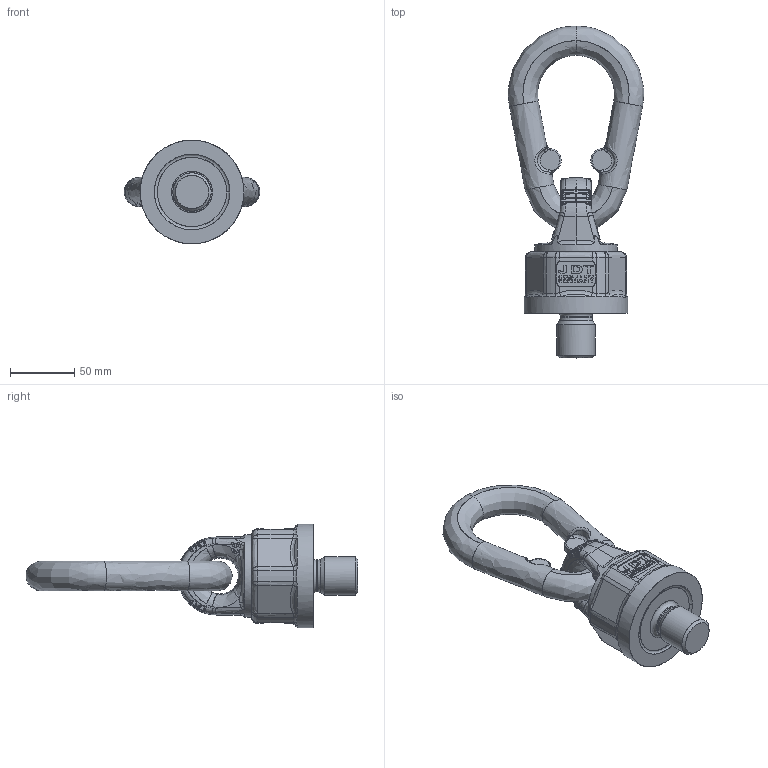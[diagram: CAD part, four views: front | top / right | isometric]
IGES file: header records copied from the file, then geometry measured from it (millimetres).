
Global section: file name: C:\IDEAS\IDEAS-DATEN\Temp\TP8_M30x35_senkrecht.igs; preprocessor: I-DEAS 3D IGES Translator 11; date: 20080924.093905; units: millimetre
Bounding box: 105.98 x 259.34 x 81 mm (x, y, z)
Surface area: 60092.6 mm2 (no closed solid volume)
Topology: 0 solids, 0 shells, 664 faces, 3482 edges, 3422 vertices
Faces by surface type: bspline 664
